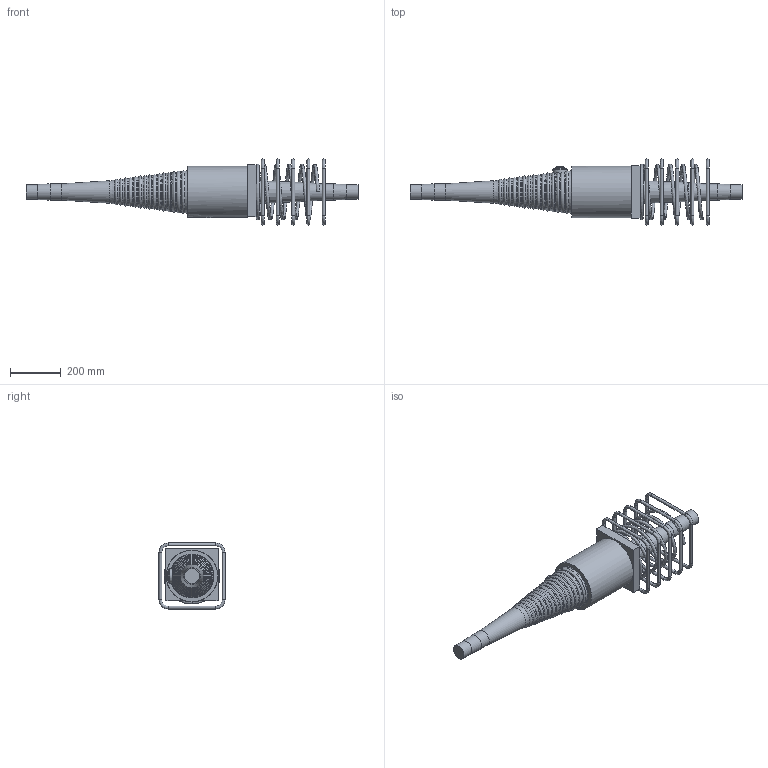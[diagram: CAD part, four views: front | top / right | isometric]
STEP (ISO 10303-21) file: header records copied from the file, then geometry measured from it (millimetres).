
FILE_DESCRIPTION(/* description */ (''),/* implementation_level */ '2;1');
FILE_NAME(/* name */ 'Z:\04 Publications\05 Give-out\BBR\6_3D_Models\BBR VT CONA CMI\BBR VT CONA CMI SP\00706\BBR VT CONA CMI SP 706_Coupler H Assembly_CS-34,28.stp',/* time_stamp */ '2017-05-10T08:44:50+02:00',/* author */ ('IP'),/* organization */ (''),/* preprocessor_version */ 'ST-DEVELOPER v16.1',/* originating_system */ 'Autodesk Inventor 2016',/* authorisation */ '');
FILE_SCHEMA (('AUTOMOTIVE_DESIGN { 1 0 10303 214 3 1 1 }'));
Length unit declared in the file: millimetre
Products named in the file (1): BBR VT CONA CMI SP 706_Coupler H Assembly_CS-34,28
Bounding box: 1305.87 x 260 x 260 mm (x, y, z)
Volume: 17158078.2 mm3; surface area: 857209.7 mm2
Topology: 7 solids, 7 shells, 833 faces, 2154 edges, 1390 vertices
Faces by surface type: bspline 349, plane 292, cylinder 89, torus 74, cone 17, sphere 12
Full cylindrical faces by diameter (mm): 12 x20, 34 x1, 57 x1, 59 x2, 64 x2, 203 x1
Entity records: 33583 total; most frequent: CARTESIAN_POINT 15445, ORIENTED_EDGE 4090, DIRECTION 2780, EDGE_CURVE 2043, VERTEX_POINT 1386, EDGE_LOOP 1007, AXIS2_PLACEMENT_3D 949, LINE 882
